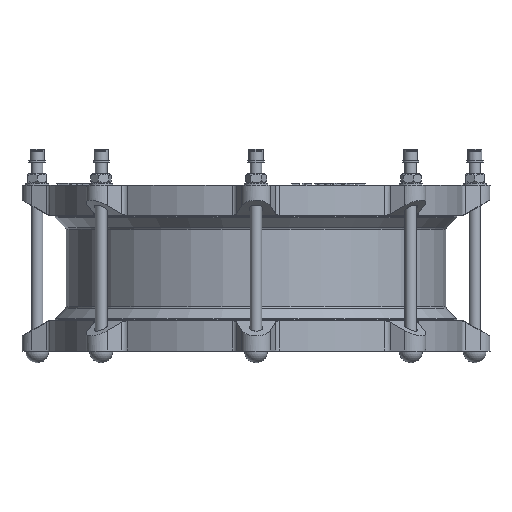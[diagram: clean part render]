
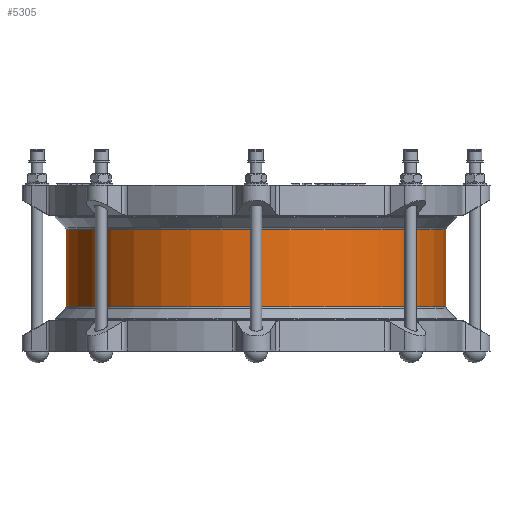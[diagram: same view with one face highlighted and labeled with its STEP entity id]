
A CAD part, front view. The second image highlights one B-rep face of the part: STEP entity #5305.
In plain terms, the highlighted cylindrical face has radius 227 mm (diameter 454 mm), a full revolution.
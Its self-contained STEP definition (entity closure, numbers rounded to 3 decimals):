
#5305=ADVANCED_FACE('',(#10041,#10043),#10045,.T.);
#10041=FACE_OUTER_BOUND('',#10042,.T.);
#10042=EDGE_LOOP('',(#14663));
#10043=FACE_OUTER_BOUND('',#10044,.T.);
#10044=EDGE_LOOP('',(#14664));
#10045=CYLINDRICAL_SURFACE('',#10046,227.);
#10046=AXIS2_PLACEMENT_3D('',#10047,#10048,#10049);
#10047=CARTESIAN_POINT('',(0.,0.,47.257));
#10048=DIRECTION('',(0.,0.,-1.));
#10049=DIRECTION('',(0.,1.,0.));
#14663=ORIENTED_EDGE('',*,*,#16741,.T.);
#14664=ORIENTED_EDGE('',*,*,#16742,.F.);
#16741=EDGE_CURVE('',#19553,#19553,#19554,.T.);
#16742=EDGE_CURVE('',#19555,#19555,#19556,.T.);
#19553=VERTEX_POINT('',#30154);
#19554=CIRCLE('',#30155,227.);
#19555=VERTEX_POINT('',#30159);
#19556=CIRCLE('',#30160,227.);
#30154=CARTESIAN_POINT('',(0.,227.,46.015));
#30155=AXIS2_PLACEMENT_3D('',#30156,#30157,#30158);
#30156=CARTESIAN_POINT('',(0.,0.,46.015));
#30157=DIRECTION('',(0.,0.,-1.));
#30158=DIRECTION('',(0.,1.,0.));
#30159=CARTESIAN_POINT('',(0.,227.,-46.015));
#30160=AXIS2_PLACEMENT_3D('',#30161,#30162,#30163);
#30161=CARTESIAN_POINT('',(0.,0.,-46.015));
#30162=DIRECTION('',(0.,0.,-1.));
#30163=DIRECTION('',(0.,1.,0.));
